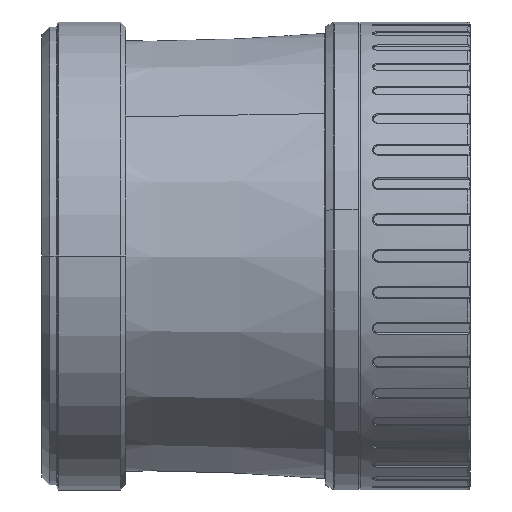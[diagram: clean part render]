
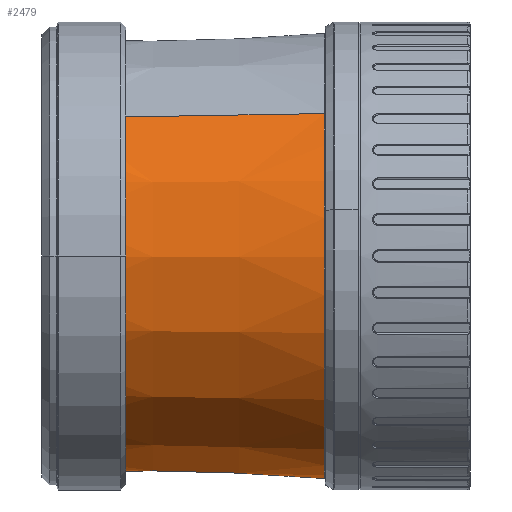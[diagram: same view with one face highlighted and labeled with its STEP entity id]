
A CAD part, left-side view. The second image highlights one B-rep face of the part: STEP entity #2479.
In plain terms, the highlighted conical face has half-angle 1.5 degrees and reference radius 43.751 mm.
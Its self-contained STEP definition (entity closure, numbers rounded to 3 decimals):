
#1158 = LINE ( 'NONE', #132195, #26874 ) ;
#2479 = ADVANCED_FACE ( 'NONE', ( #102588 ), #33849, .T. ) ;
#2826 = EDGE_CURVE ( 'NONE', #113244, #103465, #1158, .T. ) ;
#3921 = ORIENTED_EDGE ( 'NONE', *, *, #125395, .T. ) ;
#10881 = DIRECTION ( 'NONE',  ( -0.02, -1., 0.017 ) ) ;
#11850 = CARTESIAN_POINT ( 'NONE',  ( 0., 28.664, 0. ) ) ;
#16699 = CARTESIAN_POINT ( 'NONE',  ( 0., 28.658, 0. ) ) ;
#19265 = EDGE_CURVE ( 'NONE', #46392, #113244, #50908, .T. ) ;
#19379 = AXIS2_PLACEMENT_3D ( 'NONE', #16699, #71360, #71836 ) ;
#21444 = ORIENTED_EDGE ( 'NONE', *, *, #75203, .F. ) ;
#22866 = DIRECTION ( 'NONE',  ( -0.768, 0., 0.64 ) ) ;
#26369 = DIRECTION ( 'NONE',  ( 0., 1., 0. ) ) ;
#26874 = VECTOR ( 'NONE', #10881, 1000. ) ;
#27534 = CARTESIAN_POINT ( 'NONE',  ( -33.618, 28.664, 27.999 ) ) ;
#33849 = CONICAL_SURFACE ( 'NONE', #19379, 43.751, 0.026 ) ;
#41766 = CARTESIAN_POINT ( 'NONE',  ( 32.602, 79.161, -27.153 ) ) ;
#46392 = VERTEX_POINT ( 'NONE', #41766 ) ;
#50908 = CIRCLE ( 'NONE', #56770, 42.428 ) ;
#54219 = CARTESIAN_POINT ( 'NONE',  ( 33.618, 28.658, -27.999 ) ) ;
#56770 = AXIS2_PLACEMENT_3D ( 'NONE', #92075, #26369, #103115 ) ;
#63540 = CARTESIAN_POINT ( 'NONE',  ( -32.602, 79.161, 27.153 ) ) ;
#71360 = DIRECTION ( 'NONE',  ( 0., -1., 0. ) ) ;
#71836 = DIRECTION ( 'NONE',  ( -0.768, 0., 0.64 ) ) ;
#74196 = VECTOR ( 'NONE', #119922, 1000. ) ;
#75203 = EDGE_CURVE ( 'NONE', #103465, #141403, #126662, .T. ) ;
#86493 = AXIS2_PLACEMENT_3D ( 'NONE', #11850, #88562, #22866 ) ;
#86523 = ORIENTED_EDGE ( 'NONE', *, *, #19265, .F. ) ;
#88562 = DIRECTION ( 'NONE',  ( 0., -1., 0. ) ) ;
#92075 = CARTESIAN_POINT ( 'NONE',  ( 0., 79.161, 0. ) ) ;
#100229 = EDGE_LOOP ( 'NONE', ( #86523, #3921, #21444, #120794 ) ) ;
#102588 = FACE_OUTER_BOUND ( 'NONE', #100229, .T. ) ;
#103115 = DIRECTION ( 'NONE',  ( -0.768, 0., 0.64 ) ) ;
#103306 = LINE ( 'NONE', #54219, #74196 ) ;
#103465 = VERTEX_POINT ( 'NONE', #27534 ) ;
#113244 = VERTEX_POINT ( 'NONE', #63540 ) ;
#119922 = DIRECTION ( 'NONE',  ( 0.02, -1., -0.017 ) ) ;
#120794 = ORIENTED_EDGE ( 'NONE', *, *, #2826, .F. ) ;
#125395 = EDGE_CURVE ( 'NONE', #46392, #141403, #103306, .T. ) ;
#126662 = CIRCLE ( 'NONE', #86493, 43.751 ) ;
#129601 = CARTESIAN_POINT ( 'NONE',  ( 33.618, 28.664, -27.999 ) ) ;
#132195 = CARTESIAN_POINT ( 'NONE',  ( -33.618, 28.658, 27.999 ) ) ;
#141403 = VERTEX_POINT ( 'NONE', #129601 ) ;
